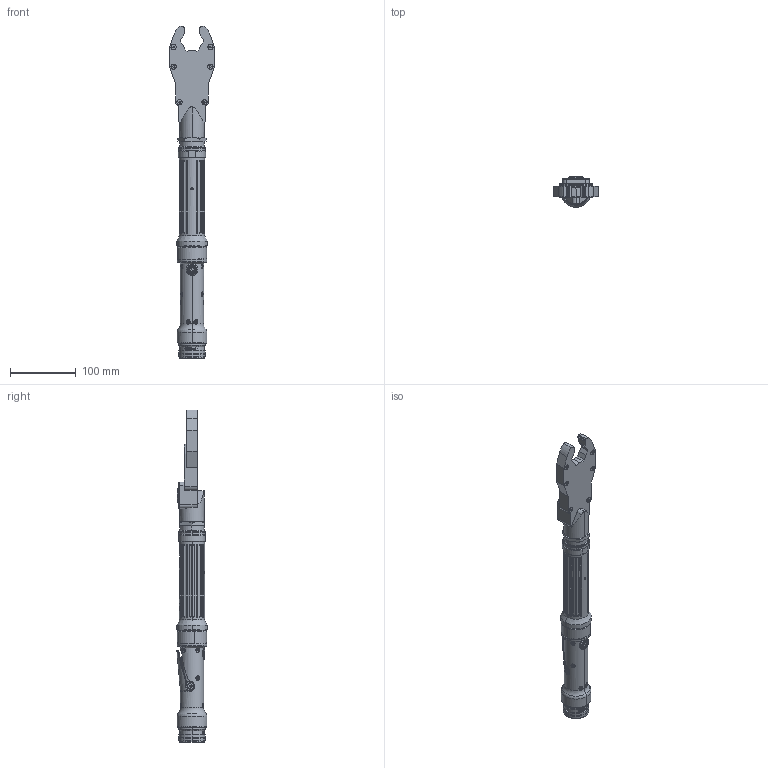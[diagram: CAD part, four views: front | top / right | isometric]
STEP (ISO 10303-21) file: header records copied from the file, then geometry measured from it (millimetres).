
FILE_DESCRIPTION (( 'STEP AP214' ), '1' );
FILE_NAME ('AET32050C.STEP', '2016-04-19T21:25:07', ( 'AIMCO' ), ( '' ), 'SwSTEP 2.0', 'SolidWorks 2016', '' );
FILE_SCHEMA (( 'AUTOMOTIVE_DESIGN' ));
Length unit declared in the file: inch
Products named in the file (1): AET32050C
Bounding box: 68 x 46.99 x 505.34 mm (x, y, z)
Surface area: 98018.9 mm2 (no closed solid volume)
Topology: 0 solids, 96 shells, 889 faces, 3139 edges, 2234 vertices
Faces by surface type: cylinder 247, plane 235, cone 137, torus 127, bspline 101, sphere 42
Entity records: 59713 total; most frequent: CARTESIAN_POINT 23855, ORIENTED_EDGE 4673, DIRECTION 4597, EDGE_CURVE 3057, VERTEX_POINT 2194, AXIS2_PLACEMENT_3D 1788, EDGE_LOOP 1037, VECTOR 1021
